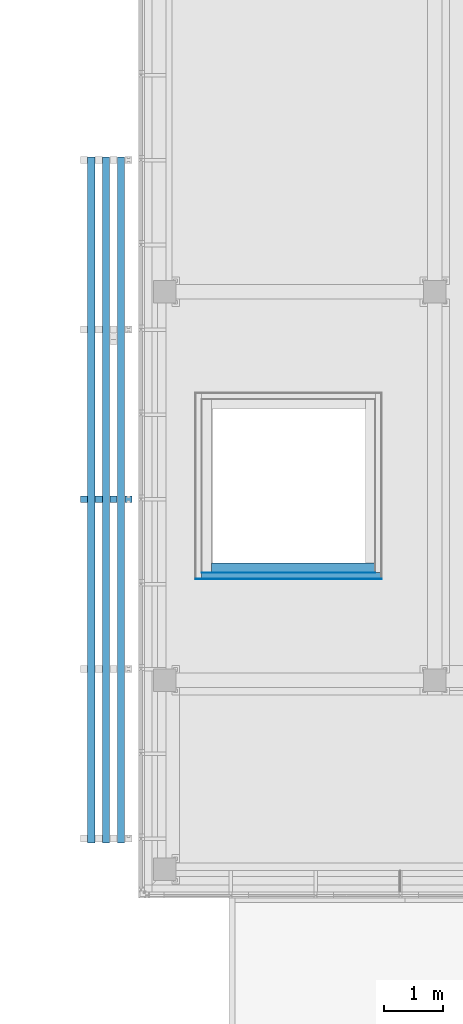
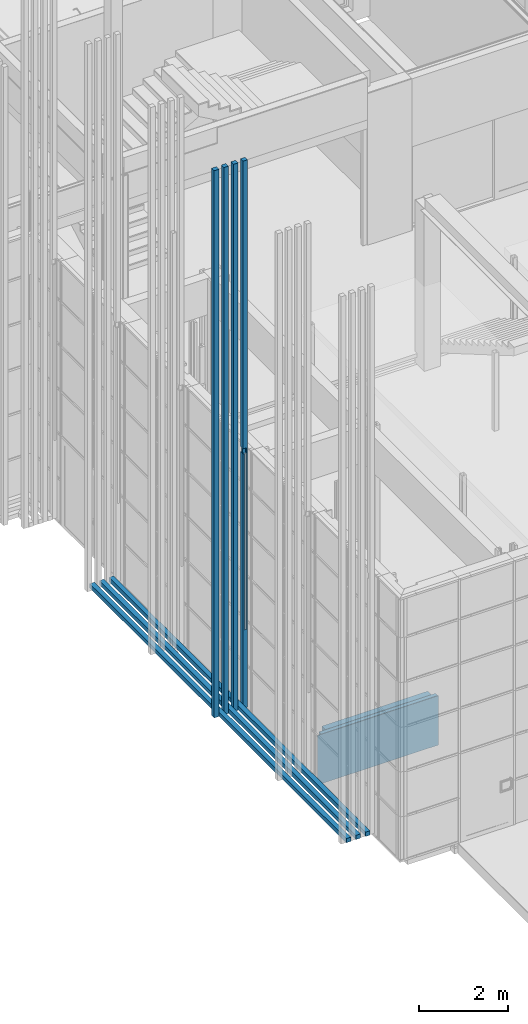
# One storey, part 135 of 260: 4 building element parts, 2 discrete accessories, 1 element without a shape of its own.
"""IFC2X3 building model written with IfcOpenShell, lengths in millimetres."""

from ifc_helpers import new_model, entity, si_unit, converted_unit, derived_unit, money_unit, direction, frame, origin_with_axes, place, context, subcontext, project, spatial, faceted_brep, material, material_list, type_object, element, aggregate, save


model = new_model("IFC2X3")

# Units and contexts
model_context = context("Model", 3, precision=0.01, world=origin_with_axes(), true_north=direction((0.0, 1.0)))
body_context = subcontext(model_context, "Body", "Model", "MODEL_VIEW")
ifc_project = project(units=[si_unit("LENGTHUNIT", "METRE", prefix="MILLI"), si_unit("AREAUNIT", "SQUARE_METRE"), si_unit("VOLUMEUNIT", "CUBIC_METRE"), converted_unit("PLANEANGLEUNIT", "DEGREE", entity("IfcPlaneAngleMeasure", 0.0174532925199), si_unit("PLANEANGLEUNIT", "RADIAN"), dimensions=[0, 0, 0, 0, 0, 0, 0]), money_unit("EUR"), converted_unit("TIMEUNIT", "Year", entity("IfcTimeMeasure", 31556926.0), si_unit("TIMEUNIT", "SECOND"), dimensions=[0, 0, 1, 0, 0, 0, 0]), si_unit("MASSUNIT", "GRAM", prefix="KILO"), si_unit("THERMODYNAMICTEMPERATUREUNIT", "DEGREE_CELSIUS"), si_unit("LUMINOUSINTENSITYUNIT", "LUMEN"), si_unit("ENERGYUNIT", "JOULE", prefix="MEGA"), derived_unit("THERMALCONDUCTANCEUNIT", [(si_unit("POWERUNIT", "WATT"), 1), (si_unit("LENGTHUNIT", "METRE"), -1), (si_unit("THERMODYNAMICTEMPERATUREUNIT", "KELVIN"), -1)]), derived_unit("SPECIFICHEATCAPACITYUNIT", [(si_unit("ENERGYUNIT", "JOULE"), 1), (si_unit("MASSUNIT", "GRAM", prefix="KILO"), -1), (si_unit("THERMODYNAMICTEMPERATUREUNIT", "KELVIN"), -1)]), derived_unit("MASSDENSITYUNIT", [(si_unit("MASSUNIT", "GRAM", prefix="KILO"), 1), (si_unit("VOLUMEUNIT", "CUBIC_METRE"), -1)])], contexts=[model_context])

# Site, building, storey
site_placement = place(None, origin_with_axes())
site = spatial("IfcSite", under=ifc_project, at=site_placement, Name="Kolde pst 67a", CompositionType="ELEMENT")
building_placement = place(site_placement, origin_with_axes())
building = spatial("IfcBuilding", under=site, at=building_placement, Name="Riigigümnaasium", CompositionType="ELEMENT")
storey_placement = place(building_placement, origin_with_axes())
storey = spatial("IfcBuildingStorey", under=building, at=storey_placement, Name="1. korrus", CompositionType="ELEMENT", Elevation=0.0)

# Discrete accessories
ifc_material_1 = material(Name="_VÄLISVIIMISTLUS - sõrmjätkatud puitprussid 120x115mm, liitekohad vähemärgatavad, Platowood sõrmjätkatud kuusk või samaväärne; eeltöödeldud tuletõkkevõõbaga, tuletundlikkus B-s1, d0, Woodsafe Exterior WFX™ või samaväärne; kinnitused vastavalt EK osale")
ifc_material_list_1 = material_list([ifc_material_1, ifc_material_1, ifc_material_1, ifc_material_1])
discrete_accessory_type_1 = type_object("IfcDiscreteAccessoryType", Name="120 4-ne vertikaalne 870 x 115")
discrete_accessory_1_placement = place(storey_placement, frame((47687.9900449, 13936.8695665, 280.0), z_axis=(0.0, 0.0, 1.0), x_axis=(-0.999999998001, -6.32316306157e-05, 0.0)))
element("IfcDiscreteAccessory", 1, at=discrete_accessory_1_placement, inside=storey, type_object=discrete_accessory_type_1, material=ifc_material_list_1, Name="Päikesevarjestus", context=body_context, shape_type="Brep", body=[
    faceted_brep([(97.9974340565, 10.1298815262, 6989.99966445), (47.9974341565, 10.1330431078, 6989.99966445), (47.9977952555, 10.1330430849, 7139.99966445), (133.0, 10.1276682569, 7139.99966445), (133.0, 10.1276682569, 6989.99966445), (97.9974340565, 10.1298815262, 2150.0), (47.9974341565, 10.1330431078, 2150.0), (47.999638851, 45.0000000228, 6989.99966445), (47.99999995, 45.0, 7139.99966445), (133.0, 45.0, 7139.99966445), (133.0, 45.0, 6989.99966445), (133.0, 45.0, 15050.0), (133.0, -70.0, 15050.0), (133.0, -70.0, 7139.99966445), (133.0, -34.8724574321, 7139.99966445), (133.0, -34.8724574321, 6989.99966445), (133.0, -70.0, 6989.99966445), (133.0, -70.0, 0.0), (133.0, 45.0, 0.0), (97.999638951, 45.0, 6989.99966445), (97.999638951, 45.0, 2150.0), (47.999638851, 45.0, 2150.0), (13.0, 45.0, 0.0), (13.0, 45.0, 15050.0), (13.0, -70.0, 15050.0), (13.0, -70.0, 0.0), (47.9927283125, -70.0, 6989.99966445), (47.9927283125, -70.0, 7139.99966445), (47.9949498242, -34.8670824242, 7139.99966445), (47.9945887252, -34.8670824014, 6989.99966445), (97.9945886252, -34.8702439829, 6989.99966445), (97.9923755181, -69.8702439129, 6989.99966445), (47.9923756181, -69.8670823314, 6989.99966445), (97.9945886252, -34.8702439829, 2150.0), (47.9945887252, -34.8670824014, 2150.0), (97.9923755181, -69.8702439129, 2150.0), (47.9923756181, -69.8670823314, 2150.0)], [[[0, 1, 2, 3, 4]], [[1, 0, 5, 6]], [[1, 7, 8, 2]], [[3, 2, 8, 9]], [[10, 4, 3, 9, 11, 12, 13, 14, 15, 16, 17, 18]], [[19, 0, 4, 10]], [[0, 19, 20, 5]], [[20, 21, 6, 5]], [[7, 1, 6, 21]], [[20, 19, 10, 18, 22, 23, 11, 9, 8, 7, 21]], [[23, 24, 12, 11]], [[25, 17, 16, 26, 27, 13, 12, 24]], [[28, 14, 13, 27]], [[28, 29, 30, 15, 14]], [[15, 30, 31, 32, 26, 16]], [[17, 25, 22, 18]], [[25, 24, 23, 22]], [[26, 32, 29, 28, 27]], [[33, 30, 29, 34]], [[35, 31, 30, 33]], [[36, 32, 31, 35]], [[34, 29, 32, 36]], [[34, 36, 35, 33]]]),
    faceted_brep([(383.0, 45.0, 0.0), (263.0, 45.0, 0.0), (263.0, 45.0, 15050.0), (383.0, 45.0, 15050.0), (383.0, -70.0, 0.0), (263.0, -70.0, 0.0), (263.0, -70.0, 15050.0), (383.0, -70.0, 15050.0)], [[[0, 1, 2, 3]], [[0, 4, 5, 1]], [[1, 5, 6, 2]], [[3, 2, 6, 7]], [[4, 0, 3, 7]], [[5, 4, 7, 6]]]),
    faceted_brep([(633.0, 45.0, 0.0), (513.0, 45.0, 0.0), (513.0, 45.0, 15050.0), (633.0, 45.0, 15050.0), (633.0, -70.0, 0.0), (513.0, -70.0, 0.0), (513.0, -70.0, 15050.0), (633.0, -70.0, 15050.0)], [[[0, 1, 2, 3]], [[0, 4, 5, 1]], [[1, 5, 6, 2]], [[3, 2, 6, 7]], [[4, 0, 3, 7]], [[5, 4, 7, 6]]]),
    faceted_brep([(883.0, 45.0, 0.0), (763.0, 45.0, 0.0), (763.0, 45.0, 15050.0), (883.0, 45.0, 15050.0), (883.0, -70.0, 0.0), (763.0, -70.0, 0.0), (763.0, -70.0, 15050.0), (883.0, -70.0, 15050.0)], [[[0, 1, 2, 3]], [[0, 4, 5, 1]], [[1, 5, 6, 2]], [[3, 2, 6, 7]], [[4, 0, 3, 7]], [[5, 4, 7, 6]]]),
])
ifc_material_list_2 = material_list([ifc_material_1, ifc_material_1, ifc_material_1])
discrete_accessory_type_2 = type_object("IfcDiscreteAccessoryType", Name="120 1+paiksekaitse 3 tk  620 x 115")
discrete_accessory_2_placement = place(storey_placement, frame((47674.9778729, 19717.2783219, 352.5), z_axis=(0.0, 0.0, 1.0), x_axis=(-0.999999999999, -1.31279308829e-06, 0.0)))
element("IfcDiscreteAccessory", 2, at=discrete_accessory_2_placement, inside=storey, type_object=discrete_accessory_type_2, material=ifc_material_list_2, Name="Päikesevarjestus", context=body_context, shape_type="Brep", body=[
    faceted_brep([(625.0, 11559.7739444, 45.0), (625.0, 0.0, 45.0), (745.0, 0.0, 45.0), (745.0, 11559.7739444, 45.0), (625.0, 11559.7739444, -70.0), (625.0, 0.0, -70.0), (745.0, 0.0, -70.0), (745.0, 11559.7739444, -70.0)], [[[0, 1, 2, 3]], [[4, 5, 1, 0]], [[5, 6, 2, 1]], [[3, 2, 6, 7]], [[4, 0, 3, 7]], [[7, 6, 5, 4]]]),
    faceted_brep([(375.0, 11559.7739444, 45.0), (375.0, 0.0, 45.0), (495.0, 0.0, 45.0), (495.0, 11559.7739444, 45.0), (375.0, 11559.7739444, -70.0), (375.0, 0.0, -70.0), (495.0, 0.0, -70.0), (495.0, 11559.7739444, -70.0)], [[[0, 1, 2, 3]], [[4, 5, 1, 0]], [[5, 6, 2, 1]], [[3, 2, 6, 7]], [[4, 0, 3, 7]], [[7, 6, 5, 4]]]),
    faceted_brep([(125.0, 11559.7739444, 45.0), (125.0, 0.0, 45.0), (245.0, 0.0, 45.0), (245.0, 11559.7739444, 45.0), (125.0, 11559.7739444, -70.0), (125.0, 0.0, -70.0), (245.0, 0.0, -70.0), (245.0, 11559.7739444, -70.0)], [[[0, 1, 2, 3]], [[4, 5, 1, 0]], [[5, 6, 2, 1]], [[3, 2, 6, 7]], [[4, 0, 3, 7]], [[7, 6, 5, 4]]]),
])

# Wall, building element parts
wall_type = type_object("IfcWallType", Name="VS-RB-16/1_mullakast 273", PredefinedType="NOTDEFINED")
wall_placement = place(storey_placement, frame((48854.9898134, 12714.9809575, -1460.1), z_axis=(0.0, 0.0, 1.0), x_axis=(1.0, 0.0, 0.0)))
wall = element("IfcWall", 3, at=wall_placement, inside=storey, type_object=wall_type, Name="taimekast")
ifc_material_2 = material(Name="_KANDETARIND - monoliitne raudbetoon vastavalt EK osale")
building_element_part_1_placement = place(wall_placement, origin_with_axes())
building_element_part_1 = element("IfcBuildingElementPart", 4, at=building_element_part_1_placement, material=ifc_material_2, Name="_KANDETARIND - monoliitne raudbetoon vastavalt EK osale", context=body_context, shape_type="Brep", body=[
    faceted_brep([(2920.0, 0.0, 350.1), (2920.0, 160.0, 350.1), (2920.0, 160.0, 1360.1), (2920.0, 0.0, 1360.1), (160.0, 160.0, 350.1), (160.0, 0.0, 350.1), (160.0, 160.0, 1360.1), (160.0, 0.0, 1360.1)], [[[0, 1, 2, 3]], [[4, 1, 0, 5]], [[1, 4, 6, 2]], [[3, 2, 6, 7]], [[5, 0, 3, 7]], [[4, 5, 7, 6]]]),
])
ifc_material_3 = material(Name="_HÜDROISOLATSIOON/RADOONITÕKE - eelpaigaldatav elastne hüdroisolatsioonimembraan, värske betooniga nakkuv, radoonitihe, FORSOC PROOFEX 3000 või samaväärne")
building_element_part_2_placement = place(wall_placement, origin_with_axes())
building_element_part_2 = element("IfcBuildingElementPart", 5, at=building_element_part_2_placement, material=ifc_material_3, Name="_HÜDROISOLATSIOON/RADOONITÕKE - eelpaigaldatav elastne hüdroisolatsioonimembraan, värske betooniga nakkuv, radoonitihe, FORSOC PROOFEX 3000 või samaväärne", context=body_context, shape_type="Brep", body=[
    faceted_brep([(2923.0, -3.0, 350.1), (2923.0, 0.0, 350.1), (2923.0, 0.0, 1360.1), (2923.0, -3.0, 1360.1), (0.0, 0.0, 350.1), (0.0, -3.0, 350.1), (0.0, 0.0, 1360.1), (0.0, -3.0, 1360.1)], [[[0, 1, 2, 3]], [[4, 1, 0, 5]], [[1, 4, 6, 2]], [[3, 2, 6, 7]], [[5, 0, 3, 7]], [[4, 5, 7, 6]]]),
])
ifc_material_4 = material(Name="_SOOJUSTUS - vahtpolüstüreenplaadid EPS 120 Perimeeter, survetugevus min. 120kPa, veeimavus <2%, soojuserijuhtivus λD<0,036 W/(mK)")
building_element_part_3_placement = place(wall_placement, origin_with_axes())
building_element_part_3 = element("IfcBuildingElementPart", 6, at=building_element_part_3_placement, material=ifc_material_4, Name="_SOOJUSTUS - vahtpolüstüreenplaadid EPS 120 Perimeeter, survetugevus min. 120kPa, veeimavus <2%, soojuserijuhtivus λD<0,036 W/(mK)", context=body_context, shape_type="Brep", body=[
    faceted_brep([(2963.0, -3.0, 350.1), (-3.0, -3.0, 350.1), (-3.0, -3.0, 1360.1), (3023.0, -3.0, 1360.1), (3023.0, -3.0, 0.0), (2963.0, -3.0, 0.0), (2963.0, -43.0, 350.1), (-3.0, -43.0, 350.1), (-3.0, -43.0, 0.0), (-3.0, -103.0, 0.0), (-3.0, -103.0, 1360.1), (3023.0, -103.0, 1360.1), (3023.0, -103.0, 0.0), (2963.0, -43.0, 0.0)], [[[0, 1, 2, 3, 4, 5]], [[1, 0, 6, 7]], [[7, 8, 9, 10, 2, 1]], [[11, 3, 2, 10]], [[12, 4, 3, 11]], [[13, 5, 4, 12, 9, 8]], [[0, 5, 13, 6]], [[13, 8, 7, 6]], [[12, 11, 10, 9]]]),
])
ifc_material_5 = material(Name="_ALUSKATE - drenaaži- ja kaitsematt geotekstiiliga soojustuse kaitseks, Interplast Iso-Drain 8 Geo või samaväärne")
building_element_part_4_placement = place(wall_placement, origin_with_axes())
building_element_part_4 = element("IfcBuildingElementPart", 7, at=building_element_part_4_placement, material=ifc_material_5, Name="_ALUSKATE - drenaaži- ja kaitsematt geotekstiiliga soojustuse kaitseks, Interplast Iso-Drain 8 Geo või samaväärne", context=body_context, shape_type="Brep", body=[
    faceted_brep([(3033.0, -113.0, 0.0), (-103.0, -113.0, 0.0), (-103.0, -103.0, 0.0), (3033.0, -103.0, 0.0), (3033.0, -113.0, 1360.1), (-103.0, -113.0, 1360.1), (-103.0, -103.0, 1360.1), (3033.0, -103.0, 1360.1)], [[[0, 1, 2, 3]], [[4, 5, 1, 0]], [[2, 1, 5, 6]], [[3, 2, 6, 7]], [[3, 7, 4, 0]], [[7, 6, 5, 4]]]),
])
aggregate(wall, [building_element_part_1, building_element_part_2, building_element_part_3, building_element_part_4])

save(model, "model.ifc")
